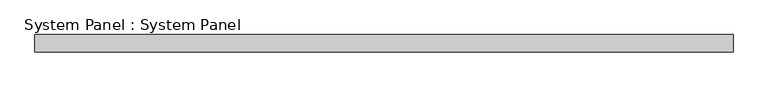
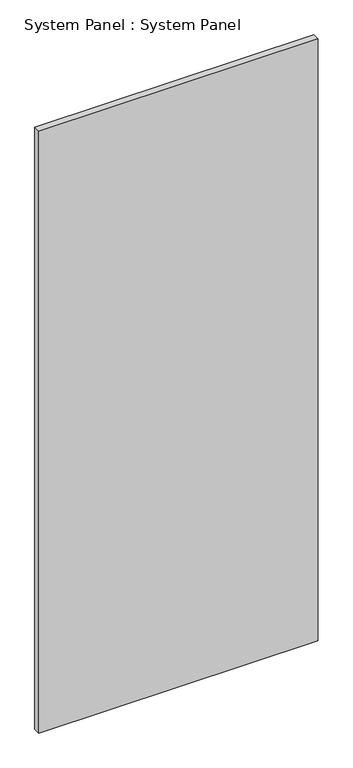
"""IFC4 building model written with IfcOpenShell, lengths in millimetres: plate geometry, System Panel : System Panel."""

import ifcopenshell
import ifcopenshell.guid

model = None  # the IFC model being written
_history = None  # IfcOwnerHistory: only IFC2X3 demands one
_inside = {}  # id of a spatial element -> (the spatial element, [elements in it])
_under = {}  # id of a project, library or spatial element -> (it, [spatial elements below it])
_declared = {}  # id of a project -> (the project, [libraries it declares])
_typed = {}  # id of a type object -> (the type object, [elements of that type])
_made_of = {}  # id of a material, layer set ... -> (it, [elements and type objects made of it])


def new_model(schema):
    """Start an empty IFC model of exactly this schema.

    Asked for "IFC4X3", IfcOpenShell would pick the latest addendum, in which some entities
    have other attributes; the version numbers below select the first issue.
    IFC2X3 requires an IfcOwnerHistory on every rooted entity: one is made here for all.
    """
    global model, _history
    if schema == "IFC4X3":
        model = ifcopenshell.file(schema_version=(4, 3, 0, 0))
    else:
        model = ifcopenshell.file(schema=schema)
    _inside.clear()
    _under.clear()
    _declared.clear()
    _typed.clear()
    _made_of.clear()
    _history = None
    if model.schema == "IFC2X3":
        org = make("IfcOrganization", Name="unknown")
        user = make(
            "IfcPersonAndOrganization",
            ThePerson=make("IfcPerson", FamilyName="unknown"),
            TheOrganization=org,
        )
        app = make(
            "IfcApplication",
            ApplicationDeveloper=org,
            Version="unknown",
            ApplicationFullName="unknown",
            ApplicationIdentifier="unknown",
        )
        _history = make(
            "IfcOwnerHistory",
            OwningUser=user,
            OwningApplication=app,
            ChangeAction="ADDED",
            CreationDate=0,
        )
    return model


def make(cls, **values):
    """One entity of the class cls with the attributes given. An attribute that is None is left unset."""
    return model.create_entity(
        cls, **{name: value for name, value in values.items() if value is not None}
    )


def rooted(cls, **values):
    """An entity with a GlobalId (a new one), such as an element, a storey or a relation."""
    return make(cls, GlobalId=ifcopenshell.guid.new(), OwnerHistory=_history, **values)


def si_unit(unit_type, name, prefix=None):
    """IfcSIUnit, for example si_unit("LENGTHUNIT", "METRE", prefix="MILLI")."""
    return make("IfcSIUnit", UnitType=unit_type, Prefix=prefix, Name=name)


def assignment(units):
    """IfcUnitAssignment: the units of a project."""
    return None if units is None else make("IfcUnitAssignment", Units=units)


def point(xyz):
    """IfcCartesianPoint."""
    return None if xyz is None else make("IfcCartesianPoint", Coordinates=xyz)


def direction(xyz):
    """IfcDirection."""
    return None if xyz is None else make("IfcDirection", DirectionRatios=xyz)


def frame(location, z_axis=None, x_axis=None):
    """IfcAxis2Placement3D, a coordinate frame: its origin and axes. An axis left out is left unset."""
    return make(
        "IfcAxis2Placement3D",
        Location=point(location),
        Axis=direction(z_axis),
        RefDirection=direction(x_axis),
    )


def origin():
    """The frame at (0, 0, 0) with its axes left unset."""
    return frame((0.0, 0.0, 0.0))


def origin_with_axes():
    """The frame at (0, 0, 0) with the z axis (0, 0, 1) and the x axis (1, 0, 0) written out."""
    return frame((0.0, 0.0, 0.0), z_axis=(0.0, 0.0, 1.0), x_axis=(1.0, 0.0, 0.0))


def place(relative_to, where):
    """IfcLocalPlacement: puts the frame where relative to a parent placement (None: the world)."""
    return make(
        "IfcLocalPlacement", PlacementRelTo=relative_to, RelativePlacement=where
    )


def context(
    kind, dimensions, precision=None, world=None, true_north=None, identifier=None
):
    """IfcGeometricRepresentationContext, for example the 3D "Model" context."""
    return make(
        "IfcGeometricRepresentationContext",
        ContextIdentifier=identifier,
        ContextType=kind,
        CoordinateSpaceDimension=dimensions,
        Precision=precision,
        WorldCoordinateSystem=world,
        TrueNorth=true_north,
    )


def project(units=None, contexts=None):
    """IfcProject with its units and contexts."""
    return rooted(
        "IfcProject",
        Name="project",
        RepresentationContexts=contexts,
        UnitsInContext=assignment(units),
    )


def spatial(cls, under=None, at=None, **own):
    """A site, building, storey or space (cls), placed at a placement, below another one or the project."""
    s = rooted(cls, ObjectPlacement=at, **own)
    if under is not None:
        _under.setdefault(under.id(), (under, []))[1].append(s)
    return s


def polyline(points):
    """IfcPolyline through the points."""
    return make("IfcPolyline", Points=[point(p) for p in points])


def outline(outer, holes=None, kind="AREA"):
    """IfcArbitraryClosedProfileDef: a profile drawn as a closed curve; with holes, ...WithVoids."""
    if holes is None:
        return make("IfcArbitraryClosedProfileDef", ProfileType=kind, OuterCurve=outer)
    return make(
        "IfcArbitraryProfileDefWithVoids",
        ProfileType=kind,
        OuterCurve=outer,
        InnerCurves=holes,
    )


def extrude(swept, where, along, depth):
    """IfcExtrudedAreaSolid: the profile swept, set in the frame where, extruded along a direction by depth."""
    return make(
        "IfcExtrudedAreaSolid",
        SweptArea=swept,
        Position=where,
        ExtrudedDirection=direction(along),
        Depth=depth,
    )


def shape(context_of_items, identifier, shape_type, items):
    """IfcShapeRepresentation: the items that make up one representation, for example the "Body"."""
    return make(
        "IfcShapeRepresentation",
        ContextOfItems=context_of_items,
        RepresentationIdentifier=identifier,
        RepresentationType=shape_type,
        Items=items,
    )


def source(mapping_origin, context_of_items, identifier, shape_type, items):
    """IfcRepresentationMap: a shape defined once, which mapped items show again and again."""
    return make(
        "IfcRepresentationMap",
        MappingOrigin=mapping_origin,
        MappedRepresentation=shape(context_of_items, identifier, shape_type, items),
    )


def transform(
    local_origin,
    x_axis=None,
    y_axis=None,
    z_axis=None,
    scale=None,
    scale2=None,
    scale3=None,
    uniform=True,
):
    """IfcCartesianTransformationOperator3D, or its non-uniform kind. x_axis, y_axis, z_axis: its Axis1, 2, 3."""
    if uniform:
        return make(
            "IfcCartesianTransformationOperator3D",
            Axis1=direction(x_axis),
            Axis2=direction(y_axis),
            LocalOrigin=point(local_origin),
            Scale=scale,
            Axis3=direction(z_axis),
        )
    return make(
        "IfcCartesianTransformationOperator3DnonUniform",
        Axis1=direction(x_axis),
        Axis2=direction(y_axis),
        LocalOrigin=point(local_origin),
        Scale=scale,
        Axis3=direction(z_axis),
        Scale2=scale2,
        Scale3=scale3,
    )


def mapped(mapping_source, mapping_target):
    """IfcMappedItem: shows the shape of a source again, moved by a transform."""
    return make(
        "IfcMappedItem", MappingSource=mapping_source, MappingTarget=mapping_target
    )


def made_of(thing, what):
    """Note that an element or type object is made of a material, layer set ...; save() writes the relation."""
    if what is not None:
        _made_of.setdefault(what.id(), (what, []))[1].append(thing)
    return thing


def element(
    cls,
    number,
    at=None,
    inside=None,
    cuts=None,
    type_object=None,
    material=None,
    context=None,
    identifier="Body",
    shape_type=None,
    held_by="IfcProductDefinitionShape",
    body=None,
    shapes=None,
    **own,
):
    """One element of the class cls, such as IfcWall. Its Tag is "e" and its number.

    at: its placement. inside: the storey or other place that contains it. cuts: it is an
    opening in that element (IfcRelVoidsElement). A single representation is given by context,
    identifier, shape_type and body (its items); several are given by shapes. held_by: the class
    of the entity that holds the representations. save() writes the other relations.
    """
    e = rooted(cls, Tag="e%d" % number, ObjectPlacement=at, **own)
    if body is not None:
        shapes = [shape(context, identifier, shape_type, body)]
    if shapes is not None:
        e.Representation = make(held_by, Representations=shapes)
    if inside is not None:
        _inside.setdefault(inside.id(), (inside, []))[1].append(e)
    if cuts is not None:
        rooted(
            "IfcRelVoidsElement", RelatingBuildingElement=cuts, RelatedOpeningElement=e
        )
    if type_object is not None:
        _typed.setdefault(type_object.id(), (type_object, []))[1].append(e)
    return made_of(e, material)


def aggregate(whole, parts):
    """IfcRelAggregates: a whole, such as a stair, and the parts it consists of."""
    return rooted("IfcRelAggregates", RelatingObject=whole, RelatedObjects=parts)


def save(model, path):
    """Write the relations noted so far, then the file.

    IfcRelAggregates (storeys below a building ...), IfcRelContainedInSpatialStructure (elements
    in a storey), IfcRelDefinesByType, IfcRelAssociatesMaterial and IfcRelDeclares: one each for
    every whole, place, type object, material and project.
    """
    for whole, parts in _under.values():
        aggregate(whole, parts)
    for where, things in _inside.values():
        rooted(
            "IfcRelContainedInSpatialStructure",
            RelatedElements=things,
            RelatingStructure=where,
        )
    for kind, things in _typed.values():
        rooted("IfcRelDefinesByType", RelatedObjects=things, RelatingType=kind)
    for what, things in _made_of.values():
        rooted("IfcRelAssociatesMaterial", RelatedObjects=things, RelatingMaterial=what)
    for by, libraries in _declared.values():
        rooted("IfcRelDeclares", RelatingContext=by, RelatedDefinitions=libraries)
    model.write(path)


def system_panel_system_panel_28f56e6c(model_context):
    return source(origin(), model_context, "Body", "SweptSolid", [
        extrude(outline(polyline([(514.35, 19.05), (-514.35, 19.05), (-514.35, 44.45), (514.35, 44.45), (514.35, 19.05)])), origin_with_axes(), (0.0, 0.0, 1.0), 2343.15),
    ])


if __name__ == "__main__":
    model = new_model("IFC4")
    model_context = context("Model", 3, world=origin())
    ifc_project = project(units=[si_unit("LENGTHUNIT", "METRE", prefix="MILLI")], contexts=[model_context])
    site = spatial("IfcSite", under=ifc_project)
    building = spatial("IfcBuilding", under=site)
    placement = place(None, origin())
    system_panel_system_panel_shape = system_panel_system_panel_28f56e6c(model_context)
    element("IfcPlate", 1, ObjectType="System Panel : System Panel", at=placement, inside=building, context=model_context, shape_type="MappedRepresentation", body=[
        mapped(system_panel_system_panel_shape, transform((0.0, 0.0, 0.0), x_axis=(1.0, 0.0, 0.0), y_axis=(0.0, 1.0, 0.0), z_axis=(0.0, 0.0, 1.0))),
    ])
    save(model, "model.ifc")
